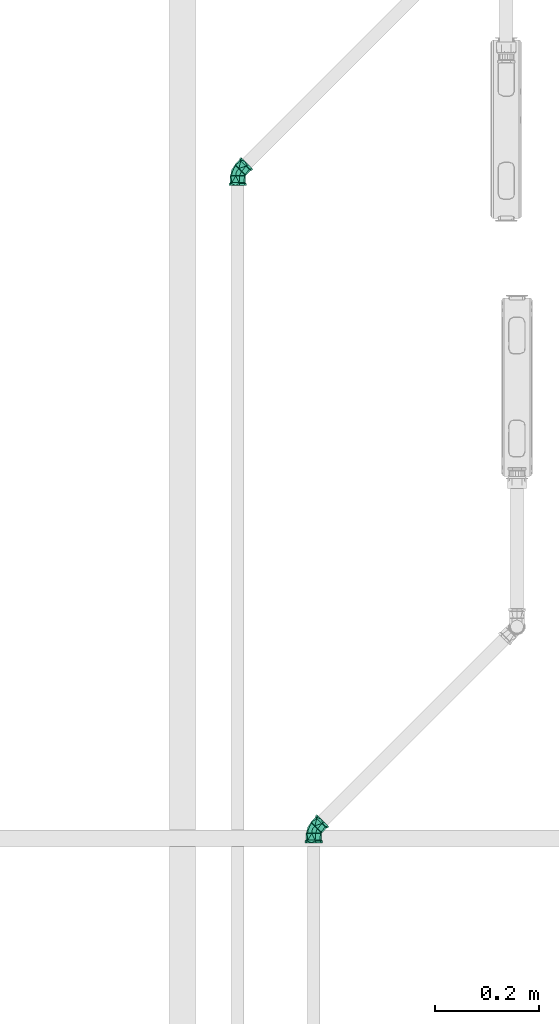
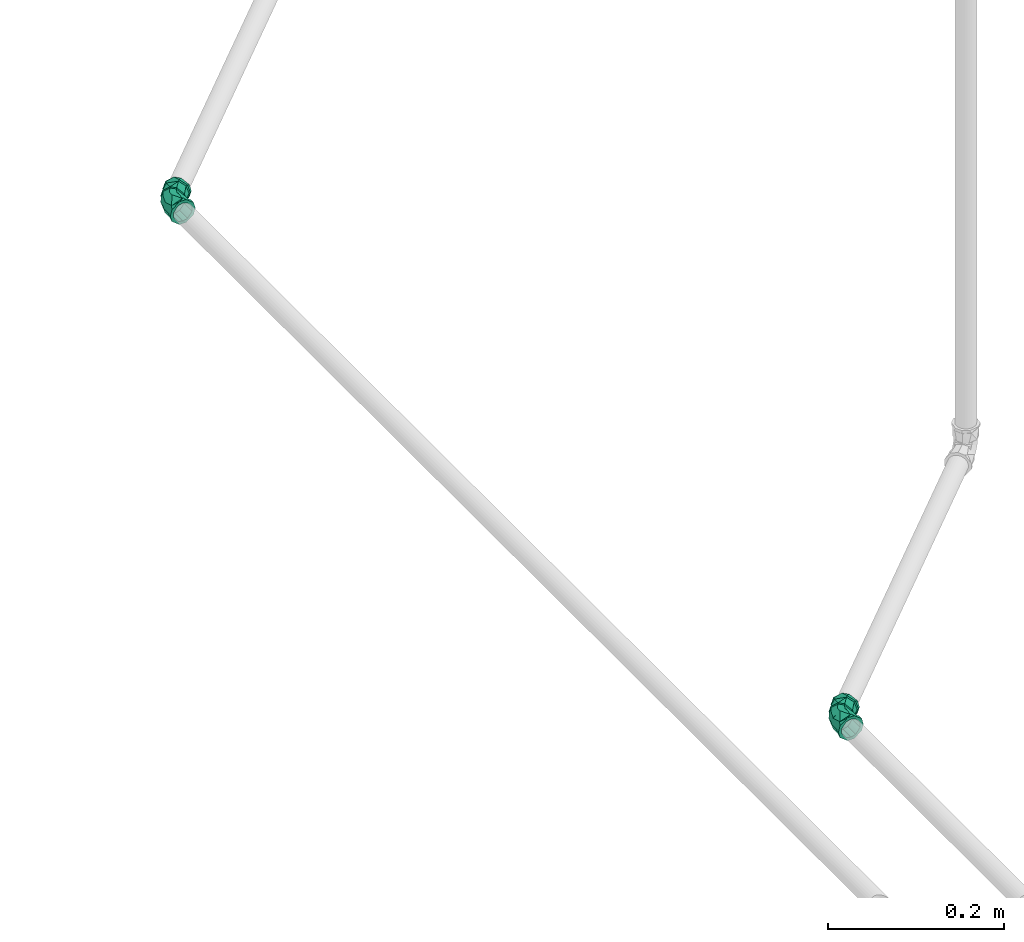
# One storey, part 337 of 589: 2 flow fittings.
"""IFC2X3 building model written with IfcOpenShell, lengths in millimetres."""

from ifc_helpers import new_model, entity, si_unit, converted_unit, derived_unit, direction, frame, origin, place, context, subcontext, project, spatial, faceted_brep, source, transform, mapped, material, type_object, type_shapes, element, save


model = new_model("IFC2X3")

# Units and contexts
model_context = context("Model", 3, precision=0.01, world=origin(), true_north=direction((6.123031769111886e-17, 1.0)))
body_context = subcontext(model_context, "Body", "Model", "MODEL_VIEW")
ifc_project = project(units=[si_unit("LENGTHUNIT", "METRE", prefix="MILLI"), si_unit("AREAUNIT", "SQUARE_METRE"), si_unit("VOLUMEUNIT", "CUBIC_METRE"), converted_unit("PLANEANGLEUNIT", "DEGREE", entity("IfcRatioMeasure", 0.017453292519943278), si_unit("PLANEANGLEUNIT", "RADIAN"), dimensions=[0, 0, 0, 0, 0, 0, 0]), si_unit("MASSUNIT", "GRAM", prefix="KILO"), derived_unit("MASSDENSITYUNIT", [(si_unit("MASSUNIT", "GRAM", prefix="KILO"), 1), (si_unit("LENGTHUNIT", "METRE"), -3)]), derived_unit("IONCONCENTRATIONUNIT", [(si_unit("MASSUNIT", "GRAM", prefix="KILO"), 1), (si_unit("LENGTHUNIT", "METRE"), -3)]), derived_unit("MOMENTOFINERTIAUNIT", [(si_unit("LENGTHUNIT", "METRE"), 4)]), si_unit("TIMEUNIT", "SECOND"), si_unit("FREQUENCYUNIT", "HERTZ"), si_unit("THERMODYNAMICTEMPERATUREUNIT", "DEGREE_CELSIUS"), derived_unit("THERMALTRANSMITTANCEUNIT", [(si_unit("MASSUNIT", "GRAM", prefix="KILO"), 1), (si_unit("THERMODYNAMICTEMPERATUREUNIT", "KELVIN"), -1), (si_unit("TIMEUNIT", "SECOND"), -3)]), derived_unit("THERMALCONDUCTANCEUNIT", [(si_unit("MASSUNIT", "GRAM", prefix="KILO"), 1), (si_unit("THERMODYNAMICTEMPERATUREUNIT", "KELVIN"), -1), (si_unit("TIMEUNIT", "SECOND"), -3), (si_unit("LENGTHUNIT", "METRE"), 1)]), derived_unit("VOLUMETRICFLOWRATEUNIT", [(si_unit("LENGTHUNIT", "METRE"), 3), (si_unit("TIMEUNIT", "SECOND"), -1)]), derived_unit("MASSFLOWRATEUNIT", [(si_unit("MASSUNIT", "GRAM", prefix="KILO"), 1), (si_unit("TIMEUNIT", "SECOND"), -1)]), derived_unit("ROTATIONALFREQUENCYUNIT", [(si_unit("TIMEUNIT", "SECOND"), -1)]), si_unit("ELECTRICCURRENTUNIT", "AMPERE"), si_unit("ELECTRICVOLTAGEUNIT", "VOLT"), si_unit("POWERUNIT", "WATT"), si_unit("FORCEUNIT", "NEWTON", prefix="KILO"), si_unit("ILLUMINANCEUNIT", "LUX"), si_unit("LUMINOUSFLUXUNIT", "LUMEN"), si_unit("LUMINOUSINTENSITYUNIT", "CANDELA"), derived_unit("USERDEFINED", [(si_unit("MASSUNIT", "GRAM", prefix="KILO"), -1), (si_unit("LENGTHUNIT", "METRE"), -2), (si_unit("TIMEUNIT", "SECOND"), 3), (si_unit("LUMINOUSFLUXUNIT", "LUMEN"), 1)]), derived_unit("USERDEFINED", [(si_unit("MASSUNIT", "GRAM", prefix="KILO"), 1), (si_unit("TIMEUNIT", "SECOND"), -3), (si_unit("LENGTHUNIT", "METRE"), 3), (si_unit("ELECTRICCURRENTUNIT", "AMPERE"), -2)]), derived_unit("SOUNDPOWERUNIT", [(si_unit("MASSUNIT", "GRAM", prefix="KILO"), 1), (si_unit("TIMEUNIT", "SECOND"), -3), (si_unit("LENGTHUNIT", "METRE"), 2)]), derived_unit("SOUNDPRESSUREUNIT", [(si_unit("MASSUNIT", "GRAM", prefix="KILO"), 1), (si_unit("LENGTHUNIT", "METRE"), -1), (si_unit("TIMEUNIT", "SECOND"), -2)]), derived_unit("LINEARVELOCITYUNIT", [(si_unit("LENGTHUNIT", "METRE"), 1), (si_unit("TIMEUNIT", "SECOND"), -1)]), si_unit("PRESSUREUNIT", "PASCAL"), derived_unit("USERDEFINED", [(si_unit("MASSUNIT", "GRAM", prefix="KILO"), 1), (si_unit("LENGTHUNIT", "METRE"), -2), (si_unit("TIMEUNIT", "SECOND"), -2)]), derived_unit("LINEARFORCEUNIT", [(si_unit("MASSUNIT", "GRAM", prefix="KILO"), 1), (si_unit("TIMEUNIT", "SECOND"), -2)]), derived_unit("PLANARFORCEUNIT", [(si_unit("MASSUNIT", "GRAM", prefix="KILO"), 1), (si_unit("LENGTHUNIT", "METRE"), -1), (si_unit("TIMEUNIT", "SECOND"), -2)]), derived_unit("SPECIFICHEATCAPACITYUNIT", [(si_unit("THERMODYNAMICTEMPERATUREUNIT", "KELVIN"), -1), (si_unit("LENGTHUNIT", "METRE"), 2), (si_unit("TIMEUNIT", "SECOND"), -2)]), derived_unit("HEATINGVALUEUNIT", [(si_unit("LENGTHUNIT", "METRE"), 2), (si_unit("TIMEUNIT", "SECOND"), -2)]), derived_unit("VAPORPERMEABILITYUNIT", [(si_unit("LENGTHUNIT", "METRE"), -1), (si_unit("TIMEUNIT", "SECOND"), 1)]), derived_unit("DYNAMICVISCOSITYUNIT", [(si_unit("MASSUNIT", "GRAM", prefix="KILO"), 1), (si_unit("TIMEUNIT", "SECOND"), -1), (si_unit("LENGTHUNIT", "METRE"), -1)]), derived_unit("THERMALEXPANSIONCOEFFICIENTUNIT", [(si_unit("THERMODYNAMICTEMPERATUREUNIT", "KELVIN"), -1)]), derived_unit("MODULUSOFELASTICITYUNIT", [(si_unit("MASSUNIT", "GRAM", prefix="KILO"), 1), (si_unit("LENGTHUNIT", "METRE"), -1), (si_unit("TIMEUNIT", "SECOND"), -2)]), derived_unit("ISOTHERMALMOISTURECAPACITYUNIT", [(si_unit("LENGTHUNIT", "METRE"), 3), (si_unit("MASSUNIT", "GRAM", prefix="KILO"), -1)]), derived_unit("MOISTUREDIFFUSIVITYUNIT", [(si_unit("TIMEUNIT", "SECOND"), -1), (si_unit("LENGTHUNIT", "METRE"), 2)])], contexts=[model_context])

# Site, building, storey
site_placement = place(None, origin())
site = spatial("IfcSite", under=ifc_project, at=site_placement, Name="Default", CompositionType="ELEMENT")
building_placement = place(site_placement, origin())
building = spatial("IfcBuilding", under=site, at=building_placement, CompositionType="ELEMENT")
storey_placement = place(building_placement, frame((0.0, 0.0, 100.0)))
storey = spatial("IfcBuildingStorey", under=building, at=storey_placement, Name="TÉRREO", CompositionType="ELEMENT", Elevation=100.0)

# Flow fittings
ifc_material = material(Name="PVC Marrom")
pipe_fitting_type = type_object("IfcPipeFittingType", Name="PVC Marrom Soldável_Joelho 45°_90°_Rodrigo MEP:Joelho", PredefinedType="NOTDEFINED", material=ifc_material)
shared_shape = source(origin(), body_context, "Body", "Brep", [
    faceted_brep([(7.758971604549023, 2.2319879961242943, 14.585479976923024), (14.24230357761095, -4.2513439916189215, 7.549999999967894), (15.67279219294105, -5.681832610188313, 0.0), (14.24230357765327, -4.251343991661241, -7.55000000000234), (7.758971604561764, 2.2319879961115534, -14.585479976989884), (2.231988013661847, 7.758971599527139, -14.585479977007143), (-4.2513439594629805, 14.242303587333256, -7.5500000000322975), (-5.681832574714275, 15.672792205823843, 0.0), (-4.251343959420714, 14.242303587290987, 7.5499999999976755), (2.23198801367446, 7.758971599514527, 14.58547997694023), (1.6481640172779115, 6.787160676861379, 13.561598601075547), (-4.380046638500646, 12.815371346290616, 7.019999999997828), (-5.710116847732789, 14.14544155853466, 0.0), (-4.380046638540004, 12.815371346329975, -7.02000000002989), (1.6481640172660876, 6.787160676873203, -13.561598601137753), (6.787160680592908, 1.648164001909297, -13.561598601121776), (12.81537133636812, -4.380046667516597, -7.020000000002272), (14.145441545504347, -5.710116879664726, 0.0), (12.815371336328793, -4.380046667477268, 7.019999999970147), (6.787160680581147, 1.6481640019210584, 13.561598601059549)], [[[0, 1, 2, 3, 4, 5, 6, 7, 8, 9]], [[10, 11, 12, 13, 14, 15, 16, 17, 18, 19]], [[3, 2, 17, 16]], [[4, 3, 16, 15]], [[15, 14, 5, 4]], [[6, 5, 14, 13]], [[7, 6, 13, 12]], [[8, 7, 12, 11]], [[9, 8, 11, 10]], [[10, 19, 0, 9]], [[1, 0, 19, 18]], [[2, 1, 18, 17]]]),
    faceted_brep([(-7.0646752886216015, 3.9081675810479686, 14.585479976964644), (-7.0646752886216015, 13.076983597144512, 7.549999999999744), (-7.0646752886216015, 15.100000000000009, 0.0), (-7.0646752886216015, 13.07698359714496, -7.549999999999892), (-7.0646752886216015, 3.908167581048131, -14.585479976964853), (-7.0646752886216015, -3.908167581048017, -14.585479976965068), (-7.0646752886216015, -13.07698359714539, -7.550000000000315), (-7.0646752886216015, -15.09999999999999, 0.0), (-7.0646752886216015, -13.076983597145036, 7.550000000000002), (-7.0646752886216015, -3.90816758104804, 14.585479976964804), (-5.964675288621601, 12.158996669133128, 7.0199999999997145), (-5.964675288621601, 3.6338193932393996, 13.561598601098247), (-5.964675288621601, -3.633819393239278, 13.561598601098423), (-5.964675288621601, -12.158996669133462, 7.0200000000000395), (-5.964675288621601, -14.040000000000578, 0.0), (-5.964675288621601, -12.15899666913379, -7.020000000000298), (-5.964675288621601, -3.6338193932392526, -13.561598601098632), (-5.964675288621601, 3.63381939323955, -13.561598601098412), (-5.964675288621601, 12.158996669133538, -7.019999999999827), (-5.964675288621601, 14.039999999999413, 0.0)], [[[0, 1, 2, 3, 4, 5, 6, 7, 8, 9]], [[10, 11, 12, 13, 14, 15, 16, 17, 18, 19]], [[3, 2, 19, 18]], [[4, 3, 18, 17]], [[17, 16, 5, 4]], [[6, 5, 16, 15]], [[7, 6, 15, 14]], [[8, 7, 14, 13]], [[9, 8, 13, 12]], [[12, 11, 0, 9]], [[1, 0, 11, 10]], [[2, 1, 10, 19]]]),
    faceted_brep([(-25.164675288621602, -4.270514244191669, -15.937776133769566), (-25.164675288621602, -6.250000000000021, -10.825317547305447), (-25.164675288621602, 0.0, -12.5), (-25.164675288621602, -14.28941916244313, -8.25000000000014), (-25.164675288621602, 4.270514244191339, -15.937776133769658), (-25.164675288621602, -12.074072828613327, -3.23523806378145), (-25.164675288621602, -16.49999999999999, 0.0), (-25.164675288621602, -12.074072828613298, 3.2352380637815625), (-25.164675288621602, -14.289419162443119, 8.249999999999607), (-25.164675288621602, -6.249999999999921, 10.825317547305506), (-25.164675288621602, -4.270514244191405, 15.937776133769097), (-25.164675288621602, 0.0, 12.5), (-25.164675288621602, 4.2705142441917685, 15.937776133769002), (-25.164675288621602, 6.2499999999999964, 10.825317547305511), (-25.164675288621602, 14.289419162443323, 8.249999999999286), (-25.164675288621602, 12.07407282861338, 3.2352380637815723), (-25.164675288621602, 16.50000000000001, 0.0), (-25.164675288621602, 12.074072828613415, -3.235238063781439), (-25.164675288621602, 14.28941916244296, -8.250000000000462), (-25.164675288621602, 6.250000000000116, -10.82531754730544), (-21.164675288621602, 16.500000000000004, 0.0), (-21.16467528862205, 12.639142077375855, 10.606700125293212), (-21.164675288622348, 2.863383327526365, 16.249647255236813), (-21.16467528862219, -12.641802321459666, 10.603529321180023), (-21.164675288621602, -16.49999999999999, 0.0), (-21.164675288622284, -4.889209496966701, 13.426588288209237), (-21.164675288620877, -12.641802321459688, -10.603529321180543), (-21.164675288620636, -2.8674593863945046, -16.24892847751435), (-21.164675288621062, 12.639142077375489, -10.606700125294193), (-21.16467528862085, 4.885841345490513, -13.427814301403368), (-19.7646752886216, -15.099999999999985, 0.0), (-19.764675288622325, -11.569164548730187, 9.703835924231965), (-19.76467528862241, -4.47436747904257, 12.287362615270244), (-19.7646752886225, 2.620429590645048, 14.870889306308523), (-19.76467528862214, 11.566730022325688, 9.706737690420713), (-19.764675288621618, 15.09999999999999, 0.0), (-19.764675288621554, 11.566730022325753, -9.706737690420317), (-19.76467528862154, 4.471285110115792, -12.28848460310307), (-19.76467528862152, -2.6241598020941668, -14.870231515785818), (-19.76467528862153, -11.56916454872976, -9.703835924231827), (-7.0646752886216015, 0.0, -12.5), (-7.0646752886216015, -6.250000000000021, -10.825317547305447), (-7.0646752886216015, -3.908167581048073, -14.585479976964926), (-7.0646752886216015, 3.9081675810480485, -14.585479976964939), (-7.0646752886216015, 6.250000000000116, -10.82531754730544), (-7.0646752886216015, -13.076983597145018, -7.549999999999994), (-7.0646752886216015, -12.074072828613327, -3.23523806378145), (-7.0646752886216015, -15.09999999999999, 0.0), (-7.0646752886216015, -12.074072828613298, 3.2352380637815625), (-7.0646752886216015, -13.076983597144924, 7.550000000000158), (-7.0646752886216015, -6.249999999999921, 10.825317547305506), (-7.0646752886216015, -3.908167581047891, 14.585479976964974), (-7.0646752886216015, 0.0, 12.5), (-7.0646752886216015, 3.9081675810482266, 14.58547997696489), (-7.0646752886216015, 6.2499999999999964, 10.825317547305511), (-7.0646752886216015, 13.076983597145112, 7.549999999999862), (-7.0646752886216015, 12.07407282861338, 3.2352380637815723), (-7.0646752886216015, 15.100000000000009, 0.0), (-7.0646752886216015, 12.074072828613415, -3.235238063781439), (-7.0646752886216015, 13.076983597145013, -7.550000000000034)], [[[0, 1, 2]], [[1, 0, 3]], [[2, 4, 0]], [[3, 5, 1]], [[3, 6, 5]], [[5, 6, 7]], [[8, 7, 6]], [[7, 8, 9]], [[10, 9, 8]], [[9, 10, 11]], [[11, 10, 12]], [[12, 13, 11]], [[14, 13, 12]], [[13, 14, 15]], [[16, 15, 14]], [[16, 17, 15]], [[18, 17, 16]], [[19, 17, 18]], [[19, 18, 4]], [[4, 2, 19]], [[16, 14, 20]], [[14, 21, 20]], [[21, 14, 12]], [[21, 12, 22]], [[23, 10, 8]], [[24, 8, 6]], [[10, 23, 25, 22]], [[23, 8, 24]], [[10, 22, 12]], [[6, 3, 24]], [[3, 26, 24]], [[26, 3, 0]], [[26, 0, 27]], [[28, 4, 18]], [[20, 18, 16]], [[4, 28, 29, 27]], [[28, 18, 20]], [[4, 27, 0]], [[30, 31, 23, 24]], [[31, 32, 33, 22, 25, 23]], [[34, 35, 20, 21]], [[34, 21, 22, 33]], [[35, 36, 28, 20]], [[36, 37, 38, 27, 29, 28]], [[39, 30, 24, 26]], [[39, 26, 27, 38]], [[40, 41, 42]], [[42, 43, 40]], [[44, 40, 43]], [[45, 42, 41]], [[41, 46, 45]], [[46, 47, 45]], [[48, 47, 46]], [[47, 48, 49]], [[50, 49, 48]], [[49, 50, 51]], [[52, 51, 50]], [[53, 51, 52]], [[52, 54, 53]], [[53, 54, 55]], [[56, 55, 54]], [[55, 56, 57]], [[56, 58, 57]], [[59, 58, 44]], [[57, 58, 59]], [[43, 59, 44]], [[35, 34, 55]], [[35, 55, 57]], [[55, 34, 53]], [[34, 33, 53]], [[51, 33, 32, 31]], [[49, 31, 30]], [[31, 49, 51]], [[49, 30, 47]], [[33, 51, 53]], [[30, 39, 45]], [[30, 45, 47]], [[45, 39, 42]], [[39, 38, 42]], [[43, 38, 37, 36]], [[59, 36, 35]], [[36, 59, 43]], [[59, 35, 57]], [[38, 43, 42]], [[9, 11, 52, 50]], [[7, 9, 50, 48]], [[48, 46, 5, 7]], [[1, 5, 46, 41]], [[2, 1, 41, 40]], [[19, 2, 40, 44]], [[17, 19, 44, 58]], [[58, 56, 15, 17]], [[13, 15, 56, 54]], [[11, 13, 54, 52]]]),
    faceted_brep([(-5.964675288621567, -3.6338193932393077, -13.561598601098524), (-5.9646752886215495, -12.158996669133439, -7.020000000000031), (-5.964675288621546, -14.03999999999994, 0.0), (-5.9646752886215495, -12.158996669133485, 7.019999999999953), (-5.964675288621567, -3.633819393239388, 13.561598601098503), (-5.964675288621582, 3.633819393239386, 13.561598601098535), (-5.9646752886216, 12.158996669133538, 7.0200000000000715), (-5.964675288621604, 14.040000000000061, 0.0), (-5.9646752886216, 12.158996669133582, -7.019999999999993), (-5.964675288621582, 3.6338193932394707, -13.561598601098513), (-5.710116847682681, 14.14544155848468, 0.0), (-4.380046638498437, 12.81537134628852, 7.0200000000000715), (1.6481640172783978, 6.7871606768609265, 13.561598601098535), (6.7871606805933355, 1.648164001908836, 13.561598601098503), (12.815371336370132, -4.380046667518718, 7.019999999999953), (14.145441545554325, -5.710116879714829, 0.0), (12.8153713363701, -4.380046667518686, -7.020000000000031), (6.787160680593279, 1.6481640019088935, -13.561598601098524), (1.648164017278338, 6.787160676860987, -13.561598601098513), (-4.38004663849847, 12.815371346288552, -7.019999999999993), (1.1303531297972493, -2.7289158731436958, 13.41567388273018), (6.369032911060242, -8.143777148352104, 8.336459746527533), (10.781820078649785, -7.95761688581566, 0.0), (4.918841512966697, -11.8751339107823, 0.0), (-1.9970133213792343, -13.250782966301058, 0.0), (0.36406105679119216, -10.505608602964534, 8.336459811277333), (-5.826909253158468, 14.067403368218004, 0.0), (6.369032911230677, -8.143777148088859, -8.336459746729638), (0.36406105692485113, -10.505608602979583, -8.336459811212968), (1.1303531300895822, -2.7289158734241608, -13.41567388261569)], [[[0, 1, 2, 3, 4, 5, 6, 7, 8, 9]], [[10, 11, 12, 13, 14, 15, 16, 17, 18, 19]], [[4, 20, 5]], [[13, 20, 21]], [[22, 15, 14]], [[22, 21, 23]], [[3, 24, 25]], [[26, 6, 11]], [[13, 21, 14]], [[26, 7, 6]], [[11, 6, 5, 12]], [[4, 3, 25]], [[23, 25, 24]], [[21, 22, 14]], [[21, 20, 25]], [[4, 25, 20]], [[26, 11, 10]], [[21, 25, 23]], [[20, 12, 5]], [[3, 2, 24]], [[13, 12, 20]], [[24, 2, 1]], [[27, 23, 28]], [[19, 18, 9, 8]], [[29, 9, 18]], [[28, 24, 1]], [[23, 24, 28]], [[0, 9, 29]], [[27, 28, 29]], [[17, 27, 29]], [[8, 7, 26]], [[26, 10, 19]], [[16, 15, 22]], [[0, 28, 1]], [[17, 16, 27]], [[22, 23, 27]], [[22, 27, 16]], [[0, 29, 28]], [[18, 17, 29]], [[19, 8, 26]]]),
    faceted_brep([(4.995479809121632, 4.99547979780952, -12.5), (0.576062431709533, 9.41489718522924, -10.825317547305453), (2.2319880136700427, 7.758971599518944, -14.585479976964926), (7.758971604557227, 2.2319879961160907, -14.585479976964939), (9.414897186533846, 0.5760624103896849, -10.82531754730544), (-4.251343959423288, 14.242303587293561, -7.549999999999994), (-3.542178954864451, 13.533138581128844, -3.23523806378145), (-5.681832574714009, 15.672792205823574, 0.0), (-3.5421789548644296, 13.533138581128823, 3.2352380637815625), (-4.251343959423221, 14.242303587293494, 7.550000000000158), (0.5760624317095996, 9.414897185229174, 10.825317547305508), (2.2319880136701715, 7.758971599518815, 14.585479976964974), (4.995479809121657, 4.9954797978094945, 12.5), (7.758971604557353, 2.231987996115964, 14.58547997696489), (9.414897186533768, 0.5760624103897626, 10.825317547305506), (14.24230357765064, -4.251343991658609, 7.549999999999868), (13.533138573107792, -3.54217898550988, 3.2352380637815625), (15.672792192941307, -5.681832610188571, 0.0), (13.533138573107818, -3.5421789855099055, -3.235238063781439), (14.242303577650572, -4.251343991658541, -7.550000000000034), (24.65304832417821, 3.298423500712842, 0.0), (22.154649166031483, 5.796822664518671, 9.706737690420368), (17.137411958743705, 10.814059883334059, 12.288484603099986), (12.120174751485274, 15.831297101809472, 14.870231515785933), (5.795101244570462, 22.156370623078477, 9.703835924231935), (3.2984235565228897, 24.653048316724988, 0.0), (5.795101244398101, 22.156370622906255, -9.703835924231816), (10.8118803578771, 17.139591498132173, -12.287362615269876), (15.828659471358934, 12.122812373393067, -14.870889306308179), (22.154649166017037, 5.796822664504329, -9.706737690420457), (6.028462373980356, 23.902908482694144, 10.606700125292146), (3.2984235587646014, 26.632947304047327, 0.0), (12.940967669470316, 16.990403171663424, 16.249647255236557), (23.904789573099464, 6.026581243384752, 10.603529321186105), (18.42287862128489, 11.508492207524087, 13.426588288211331), (26.632947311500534, 3.2984234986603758, 0.0), (23.904789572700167, 6.026581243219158, -10.603529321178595), (16.9932854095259, 12.938085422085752, -16.248928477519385), (6.028462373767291, 23.902908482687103, -10.60670012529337), (11.510873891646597, 18.420496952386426, -13.427814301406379), (14.774402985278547, 20.813822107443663, -15.937776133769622), (13.374695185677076, 22.213529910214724, -10.825317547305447), (17.79411256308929, 17.794112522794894, -12.5), (7.689967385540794, 27.898257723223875, -8.249999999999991), (20.81382214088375, 14.774402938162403, -15.937776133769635), (9.256453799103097, 26.33177130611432, -3.23523806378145), (6.1268506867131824, 29.46137442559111, 0.0), (9.256453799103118, 26.331771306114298, 3.2352380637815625), (7.689967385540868, 27.8982577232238, 8.250000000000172), (13.374695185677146, 22.213529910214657, 10.825317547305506), (14.774402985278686, 20.813822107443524, 15.937776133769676), (17.794112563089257, 17.794112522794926, 12.5), (20.81382214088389, 14.774402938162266, 15.937776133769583), (22.213529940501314, 13.374695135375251, 10.825317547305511), (27.89825774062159, 7.689967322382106, 8.24999999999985), (26.331771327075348, 9.256453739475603, 3.2352380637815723), (29.461374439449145, 6.126850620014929, 0.0), (26.331771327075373, 9.256453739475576, -3.235238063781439), (27.898257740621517, 7.68996732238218, -8.250000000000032), (22.213529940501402, 13.374695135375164, -10.82531754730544)], [[[0, 1, 2]], [[2, 3, 0]], [[4, 0, 3]], [[5, 2, 1]], [[1, 6, 5]], [[6, 7, 5]], [[8, 7, 6]], [[7, 8, 9]], [[10, 9, 8]], [[9, 10, 11]], [[12, 11, 10]], [[13, 11, 12]], [[12, 14, 13]], [[13, 14, 15]], [[16, 15, 14]], [[15, 16, 17]], [[16, 18, 17]], [[19, 18, 4]], [[17, 18, 19]], [[3, 19, 4]], [[20, 21, 15]], [[20, 15, 17]], [[15, 21, 13]], [[13, 21, 22, 23]], [[11, 23, 24]], [[9, 24, 25]], [[24, 9, 11]], [[9, 25, 7]], [[23, 11, 13]], [[25, 26, 5]], [[25, 5, 7]], [[5, 26, 2]], [[2, 26, 27, 28]], [[3, 28, 29]], [[19, 29, 20]], [[29, 19, 3]], [[19, 20, 17]], [[28, 3, 2]], [[24, 23, 30]], [[25, 24, 31]], [[31, 24, 30]], [[23, 32, 30]], [[21, 20, 33]], [[21, 33, 34]], [[22, 32, 23]], [[35, 33, 20]], [[32, 22, 34]], [[22, 21, 34]], [[20, 29, 36]], [[36, 35, 20]], [[37, 36, 29]], [[38, 39, 27]], [[29, 28, 37]], [[26, 25, 31]], [[38, 27, 26]], [[38, 26, 31]], [[28, 39, 37]], [[39, 28, 27]], [[40, 41, 42]], [[41, 40, 43]], [[42, 44, 40]], [[43, 45, 41]], [[43, 46, 45]], [[45, 46, 47]], [[48, 47, 46]], [[47, 48, 49]], [[50, 49, 48]], [[49, 50, 51]], [[51, 50, 52]], [[52, 53, 51]], [[54, 53, 52]], [[53, 54, 55]], [[56, 55, 54]], [[56, 57, 55]], [[58, 57, 56]], [[59, 57, 58]], [[59, 58, 44]], [[44, 42, 59]], [[56, 54, 35]], [[54, 33, 35]], [[33, 54, 52]], [[52, 32, 34, 33]], [[30, 50, 48]], [[31, 48, 46]], [[50, 30, 32]], [[30, 48, 31]], [[50, 32, 52]], [[46, 43, 31]], [[43, 38, 31]], [[38, 43, 40]], [[40, 37, 39, 38]], [[36, 44, 58]], [[35, 58, 56]], [[44, 36, 37]], [[36, 58, 35]], [[44, 37, 40]], [[49, 51, 12, 10]], [[47, 49, 10, 8]], [[8, 6, 45, 47]], [[41, 45, 6, 1]], [[42, 41, 1, 0]], [[59, 42, 0, 4]], [[57, 59, 4, 18]], [[18, 16, 55, 57]], [[53, 55, 16, 14]], [[51, 53, 14, 12]]]),
])
type_shapes(pipe_fitting_type, [shared_shape])
for number, where, z_axis, x_axis in (
    (1, (2759.784684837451, -8034.392640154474, -37.3563207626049), (1.1781585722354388e-06, -1.1781585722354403e-06, 1.0), (-0.707106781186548, -0.7071067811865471, 0.0)),
    (2, (2613.124532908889, -6765.840340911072, -37.35696665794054), (7.005000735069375e-07, -7.005000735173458e-07, 1.0), (-0.7071067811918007, -0.7071067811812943, 0.0)),
):
    element("IfcFlowFitting", number, at=place(storey_placement, frame(where, z_axis=z_axis, x_axis=x_axis)), inside=storey, type_object=pipe_fitting_type, material=ifc_material, Name="PVC Marrom Soldável_Joelho 45°_90°_Rodrigo MEP:Joelho", ObjectType="PVC Marrom Soldável_Joelho 45°_90°_Rodrigo MEP:Joelho", context=body_context, shape_type="MappedRepresentation", body=[
        mapped(shared_shape, transform((0.0, 0.0, 0.0), scale=1.0)),
    ])

save(model, "model.ifc")
